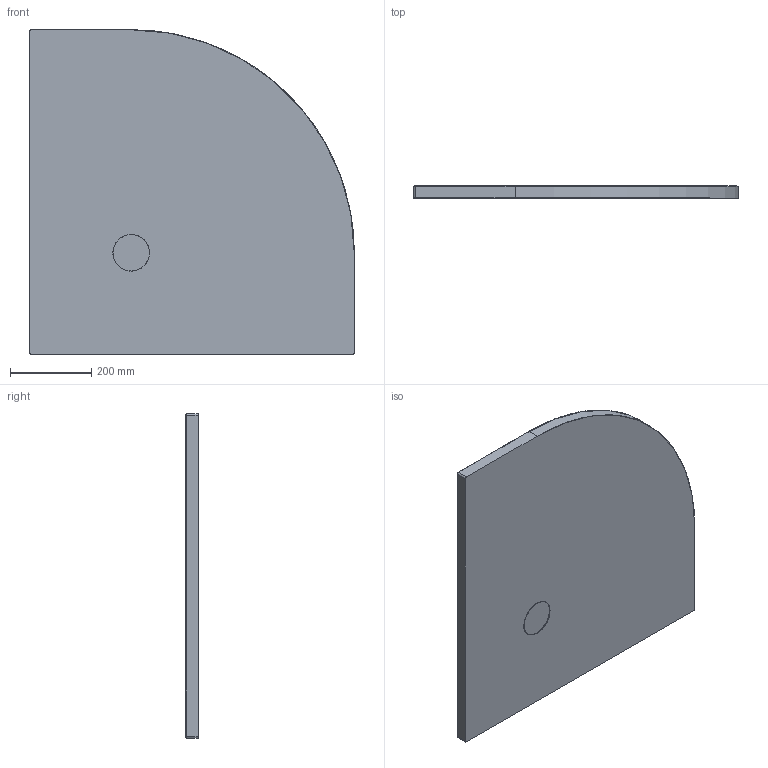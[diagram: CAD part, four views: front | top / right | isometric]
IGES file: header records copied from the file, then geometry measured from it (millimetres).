
Start section: SolidWorks IGES file using analytic representation for surfaces
Global section: file name: D:\Users\M.Szymanski\Desktop\Brodziki\Nias\BP_M_NIAS_80x80x1,5.IGS; native system: SolidWorks 2011; preprocessor: SolidWorks 2011; author: M.Szymanski; date: 180223.091551; units: millimetre
Bounding box: 800 x 30 x 800 mm (x, y, z)
Surface area: 1259839.3 mm2 (no closed solid volume)
Topology: 0 solids, 0 shells, 72 faces, 781 edges, 780 vertices
Faces by surface type: bspline 46, revolution 26
